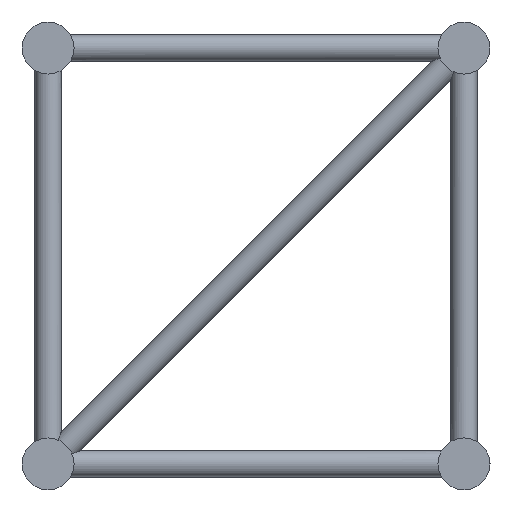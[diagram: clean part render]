
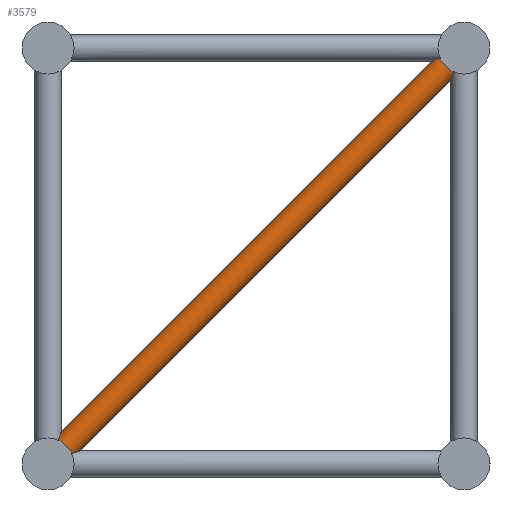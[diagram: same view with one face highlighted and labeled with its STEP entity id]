
A CAD part, left-side view. The second image highlights one B-rep face of the part: STEP entity #3579.
In plain terms, the highlighted cylindrical face has radius 15 mm (diameter 30 mm), a full revolution.
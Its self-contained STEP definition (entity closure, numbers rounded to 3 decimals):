
#538=FACE_BOUND('',#867,.T.);
#644=FACE_OUTER_BOUND('',#866,.T.);
#866=EDGE_LOOP('',(#2266,#2267,#2268,#2269));
#867=EDGE_LOOP('',(#2270,#2271,#2272,#2273));
#1194=CIRCLE('',#3805,15.);
#1195=CIRCLE('',#3807,15.);
#1196=CIRCLE('',#3809,15.);
#1197=CIRCLE('',#3811,15.);
#1370=ELLIPSE('',#3804,39.197,15.);
#1371=ELLIPSE('',#3806,39.197,15.);
#1372=ELLIPSE('',#3808,39.197,15.);
#1373=ELLIPSE('',#3810,39.197,15.);
#1442=VERTEX_POINT('',#5345);
#1443=VERTEX_POINT('',#5346);
#1444=VERTEX_POINT('',#5348);
#1445=VERTEX_POINT('',#5350);
#1446=VERTEX_POINT('',#5353);
#1447=VERTEX_POINT('',#5354);
#1448=VERTEX_POINT('',#5356);
#1449=VERTEX_POINT('',#5358);
#1778=EDGE_CURVE('',#1442,#1443,#1370,.T.);
#1779=EDGE_CURVE('',#1444,#1442,#1194,.T.);
#1780=EDGE_CURVE('',#1445,#1444,#1371,.T.);
#1781=EDGE_CURVE('',#1443,#1445,#1195,.T.);
#1782=EDGE_CURVE('',#1446,#1447,#1372,.T.);
#1783=EDGE_CURVE('',#1448,#1446,#1196,.T.);
#1784=EDGE_CURVE('',#1449,#1448,#1373,.T.);
#1785=EDGE_CURVE('',#1447,#1449,#1197,.T.);
#2266=ORIENTED_EDGE('',*,*,#1778,.F.);
#2267=ORIENTED_EDGE('',*,*,#1779,.F.);
#2268=ORIENTED_EDGE('',*,*,#1780,.F.);
#2269=ORIENTED_EDGE('',*,*,#1781,.F.);
#2270=ORIENTED_EDGE('',*,*,#1782,.F.);
#2271=ORIENTED_EDGE('',*,*,#1783,.F.);
#2272=ORIENTED_EDGE('',*,*,#1784,.F.);
#2273=ORIENTED_EDGE('',*,*,#1785,.F.);
#3290=CYLINDRICAL_SURFACE('',#3803,15.);
#3579=ADVANCED_FACE('',(#644,#538),#3290,.T.);
#3803=AXIS2_PLACEMENT_3D('',#5344,#4275,#4276);
#3804=AXIS2_PLACEMENT_3D('',#5347,#4277,#4278);
#3805=AXIS2_PLACEMENT_3D('',#5349,#4279,#4280);
#3806=AXIS2_PLACEMENT_3D('',#5351,#4281,#4282);
#3807=AXIS2_PLACEMENT_3D('',#5352,#4283,#4284);
#3808=AXIS2_PLACEMENT_3D('',#5355,#4285,#4286);
#3809=AXIS2_PLACEMENT_3D('',#5357,#4287,#4288);
#3810=AXIS2_PLACEMENT_3D('',#5359,#4289,#4290);
#3811=AXIS2_PLACEMENT_3D('',#5360,#4291,#4292);
#4275=DIRECTION('center_axis',(0.,-0.707,
0.707));
#4276=DIRECTION('ref_axis',(0.,0.707,0.707));
#4277=DIRECTION('center_axis',(0.,0.383,
0.924));
#4278=DIRECTION('ref_axis',(0.,0.924,-0.383));
#4279=DIRECTION('center_axis',(0.,-0.707,
0.707));
#4280=DIRECTION('ref_axis',(0.,0.707,0.707));
#4281=DIRECTION('center_axis',(0.,-0.924,
-0.383));
#4282=DIRECTION('ref_axis',(0.,-0.383,0.924));
#4283=DIRECTION('center_axis',(0.,-0.707,
0.707));
#4284=DIRECTION('ref_axis',(0.,0.707,0.707));
#4285=DIRECTION('center_axis',(0.,0.924,0.383));
#4286=DIRECTION('ref_axis',(0.,-0.383,0.924));
#4287=DIRECTION('center_axis',(0.,0.707,-0.707));
#4288=DIRECTION('ref_axis',(0.,0.707,0.707));
#4289=DIRECTION('center_axis',(0.,-0.383,
-0.924));
#4290=DIRECTION('ref_axis',(0.,0.924,-0.383));
#4291=DIRECTION('center_axis',(0.,0.707,-0.707));
#4292=DIRECTION('ref_axis',(0.,0.707,0.707));
#5344=CARTESIAN_POINT('Origin',(95.,452.322,-452.322));
#5345=CARTESIAN_POINT('',(105.852,25.,-10.355));
#5346=CARTESIAN_POINT('',(84.148,25.,-10.355));
#5347=CARTESIAN_POINT('Origin',(95.,0.,0.));
#5348=CARTESIAN_POINT('',(105.852,10.355,-25.));
#5349=CARTESIAN_POINT('Origin',(95.,17.678,-17.678));
#5350=CARTESIAN_POINT('',(84.148,10.355,-25.));
#5351=CARTESIAN_POINT('Origin',(95.,0.,0.));
#5352=CARTESIAN_POINT('Origin',(95.,17.678,-17.678));
#5353=CARTESIAN_POINT('',(84.148,459.645,-445.));
#5354=CARTESIAN_POINT('',(105.852,459.645,-445.));
#5355=CARTESIAN_POINT('Origin',(95.,470.,-470.));
#5356=CARTESIAN_POINT('',(84.148,445.,-459.645));
#5357=CARTESIAN_POINT('Origin',(95.,452.322,-452.322));
#5358=CARTESIAN_POINT('',(105.852,445.,-459.645));
#5359=CARTESIAN_POINT('Origin',(95.,470.,-470.));
#5360=CARTESIAN_POINT('Origin',(95.,452.322,-452.322));
